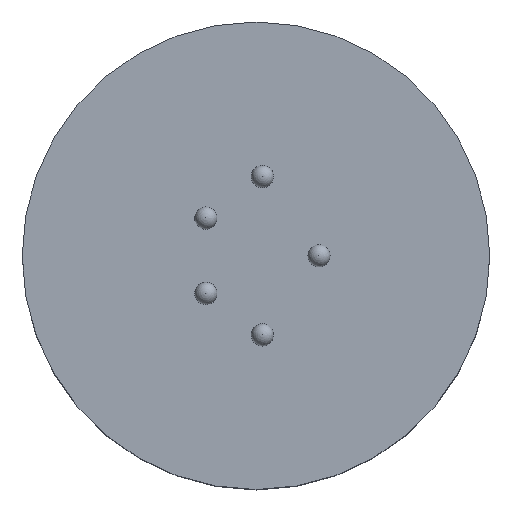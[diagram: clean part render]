
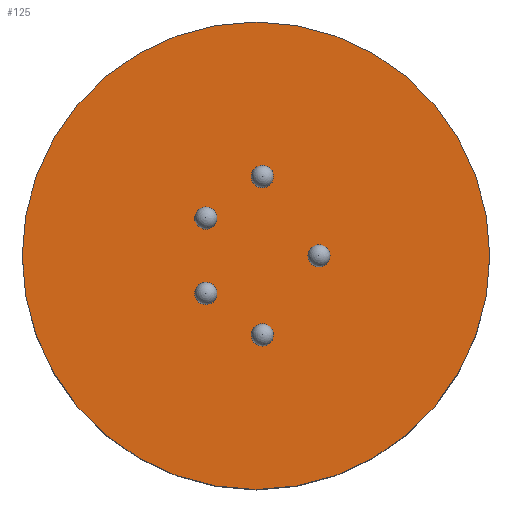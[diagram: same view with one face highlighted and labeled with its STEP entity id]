
A CAD part, top view. The second image highlights one B-rep face of the part: STEP entity #125.
In plain terms, the highlighted planar face has unit normal (0, 0, 1).
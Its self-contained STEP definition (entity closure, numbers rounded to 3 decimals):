
#125 = ADVANCED_FACE( '', ( #232 ), #233, .T. );
#232 = FACE_OUTER_BOUND( '', #371, .T. );
#233 = PLANE( '', #372 );
#371 = EDGE_LOOP( '', ( #474 ) );
#372 = AXIS2_PLACEMENT_3D( '', #475, #476, #477 );
#474 = ORIENTED_EDGE( '', *, *, #597, .F. );
#475 = CARTESIAN_POINT( '', ( 0., 0., 0. ) );
#476 = DIRECTION( '', ( 0., 0., 1. ) );
#477 = DIRECTION( '', ( -1., 0., 0. ) );
#597 = EDGE_CURVE( '', #651, #651, #652, .T. );
#651 = VERTEX_POINT( '', #715 );
#652 = CIRCLE( '', #716, 15.75 );
#715 = CARTESIAN_POINT( '', ( 15.75, 0., 0. ) );
#716 = AXIS2_PLACEMENT_3D( '', #781, #782, #783 );
#781 = CARTESIAN_POINT( '', ( 0., 0., 0. ) );
#782 = DIRECTION( '', ( 0., 0., -1. ) );
#783 = DIRECTION( '', ( 1., 0., 0. ) );
